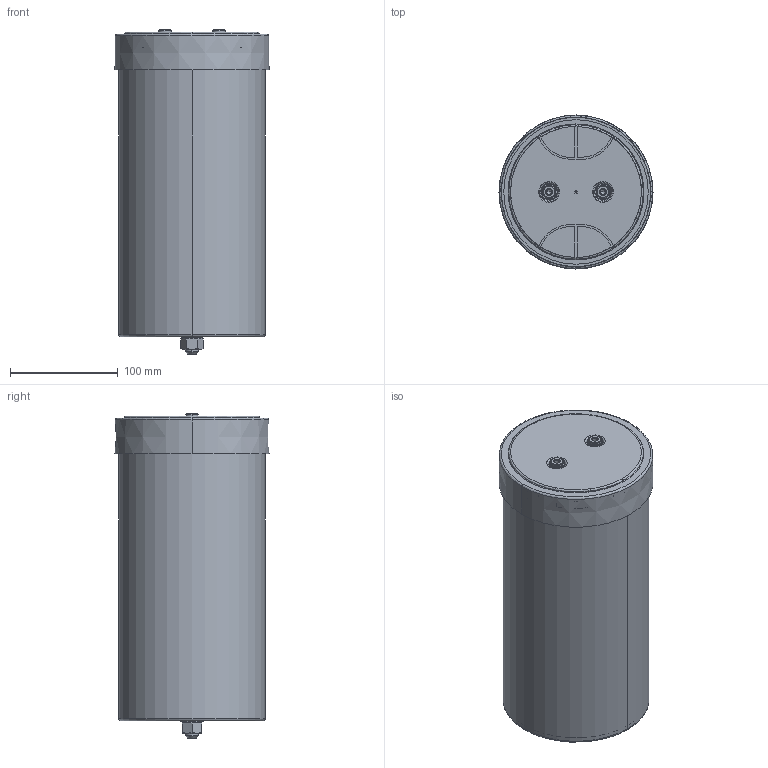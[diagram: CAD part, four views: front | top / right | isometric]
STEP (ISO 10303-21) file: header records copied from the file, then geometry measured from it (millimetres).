
FILE_DESCRIPTION (( 'STEP AP203' ), '1' );
FILE_NAME ('B25680Cx_136x283_285.STEP', '2021-09-30T08:17:59', ( '' ), ( '' ), 'SwSTEP 2.0', 'SolidWorks 2017', '' );
FILE_SCHEMA (( 'CONFIG_CONTROL_DESIGN' ));
Length unit declared in the file: millimetre
Products named in the file (1): B25680Cx_136x283_285
Bounding box: 143.08 x 143.08 x 301 mm (x, y, z)
Volume: 241013.7 mm3; surface area: 383934.8 mm2
Topology: 1 solids, 8 shells, 696 faces, 1792 edges, 1125 vertices
Faces by surface type: plane 219, cylinder 183, bspline 160, cone 102, torus 32
Entity records: 27764 total; most frequent: CARTESIAN_POINT 11680, ORIENTED_EDGE 3556, DIRECTION 3173, EDGE_CURVE 1778, AXIS2_PLACEMENT_3D 1302, VERTEX_POINT 1125, CIRCLE 765, EDGE_LOOP 755
